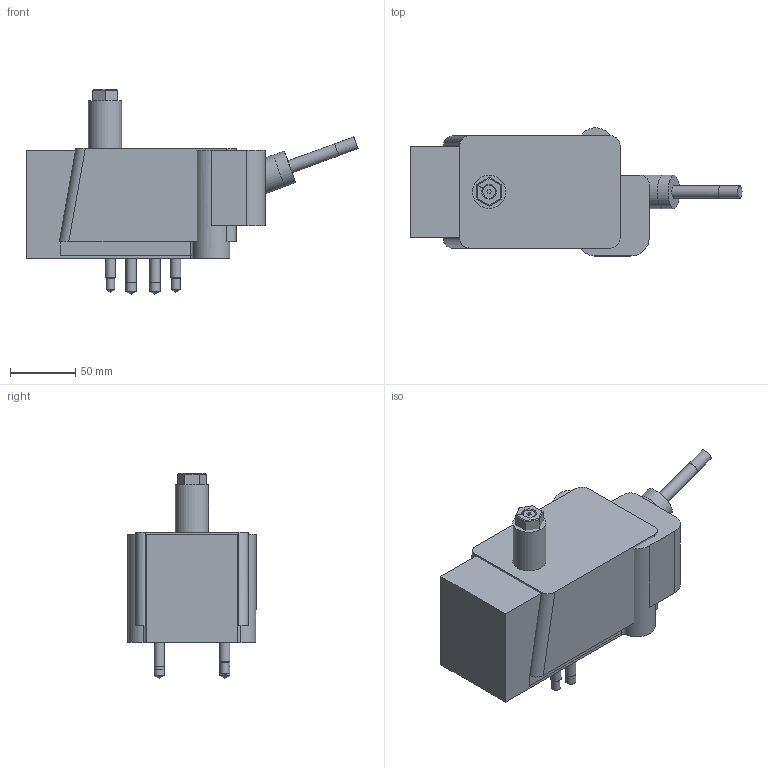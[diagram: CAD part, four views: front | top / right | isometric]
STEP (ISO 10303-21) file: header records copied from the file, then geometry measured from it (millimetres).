
FILE_DESCRIPTION(('STEP AP214'),'1');
FILE_NAME('0011_EZ-20-S-L_201209.stp','2020-12-14T12:25:41',(' '),(' '),'Spatial InterOp 3D',' ',' ');
FILE_SCHEMA(('AUTOMOTIVE_DESIGN { 1 0 10303 214 1 1 1 1 }'));
Length unit declared in the file: metre
Products named in the file (22): 1583513606; 1582908874; 1582908804; 1562099358; 1562100740; 1583159039; 1607698333; 1580688640; 1607698220; 1580688599; 1580688335; 1580700033; 1580691960; 1580702734; 1580702757; 1580689014; 1580689030; 1580689046; 1580689062; 1580689236; 1580689244; 1
Bounding box: 253.53 x 97.75 x 156.95 mm (x, y, z)
Volume: 2576404.1 mm3; surface area: 241100.7 mm2
Topology: 21 solids, 21 shells, 315 faces, 706 edges, 453 vertices
Faces by surface type: plane 171, cylinder 80, cone 52, torus 5, bspline 4, sphere 3
Full cylindrical faces by diameter (mm): 2.8 x1, 3.175 x1, 3.797 x1, 4.089 x1, 4.8 x1, 4.826 x3, 4.917 x1, 5 x1, 5.159 x1, 6 x1, 6.35 x1, 6.528 x2, 7.938 x11, 8.433 x1, 8.5 x2, 8.731 x1, 9.5 x1, 9.525 x4, 11.906 x2, 12.7 x4, 14.25 x2, 15.875 x1, 25.146 x1, 25.4 x1, 25.527 x1, 26.746 x2, 27 x2, 50.292 x1, 50.8 x1
Entity records: 21789 total; most frequent: CARTESIAN_POINT 12073, DIRECTION 1407, ORIENTED_EDGE 1128, EDGE_CURVE 564, AXIS2_PLACEMENT_3D 554, EDGE_LOOP 454, VERTEX_POINT 416, STYLED_ITEM 395
